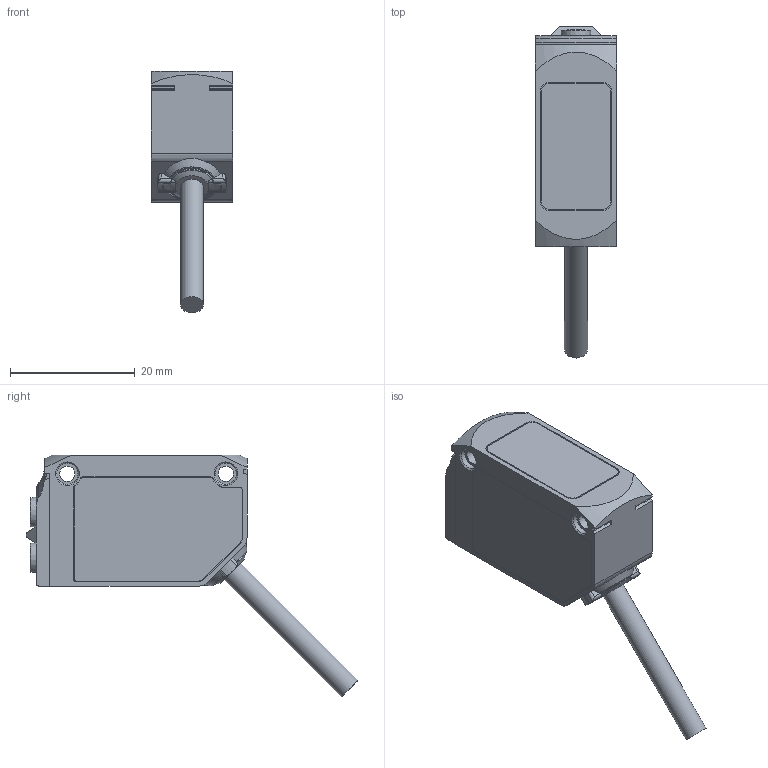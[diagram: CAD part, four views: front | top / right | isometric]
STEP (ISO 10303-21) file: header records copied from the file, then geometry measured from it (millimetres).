
FILE_DESCRIPTION( ( 'STEP AP203' ), ' ' );
FILE_NAME( 'p:/temp/worker_2356/1372_4380/app_44_02018061110581875514797192d056f_000000_00_00_000000/format_3/O6H700.stp', '2018-06-11T08:58:22', ( '' ), ( '' ), ' ', 'PARTsolutions', ' ' );
FILE_SCHEMA( ( 'CONFIG_CONTROL_DESIGN' ) );
Length unit declared in the file: millimetre
Products named in the file (3): O6H700; _O6P700_p1; _O6P702_p2
Assembly tree (2 placements, depth 2):
  O6H700
    _O6P700_p1
    _O6P702_p2
Bounding box: 13 x 53.15 x 38.75 mm (x, y, z)
Volume: 9074.8 mm3; surface area: 4108 mm2
Topology: 2 solids, 2 shells, 200 faces, 545 edges, 362 vertices
Faces by surface type: cylinder 92, plane 79, torus 16, cone 11, sphere 2
Full cylindrical faces by diameter (mm): 2.459 x2, 3.4 x4, 3.7 x1, 5 x2
Entity records: 6587 total; most frequent: CARTESIAN_POINT 1552, ORIENTED_EDGE 1024, DIRECTION 1014, EDGE_CURVE 512, AXIS2_PLACEMENT_3D 381, VERTEX_POINT 352, LINE 252, VECTOR 252
